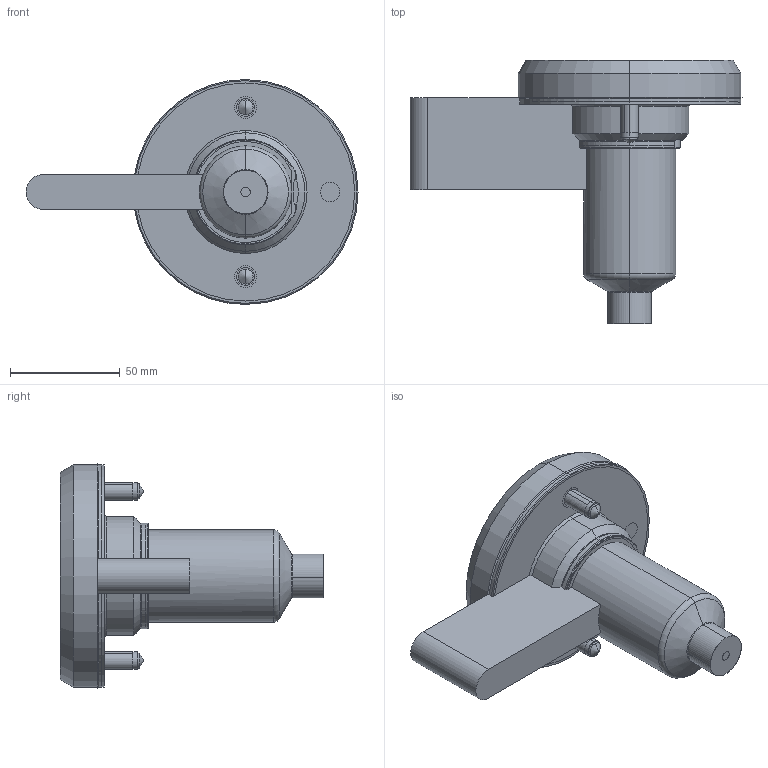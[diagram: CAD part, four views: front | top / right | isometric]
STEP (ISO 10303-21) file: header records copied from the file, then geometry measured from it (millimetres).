
FILE_DESCRIPTION (( 'STEP AP214' ), '1' );
FILE_NAME ('SOHSB16070-SOFBOP16EX.STEP', '2024-11-28T08:50:26', ( '' ), ( '' ), 'SwSTEP 2.0', 'SolidWorks 2022', '' );
FILE_SCHEMA (( 'AUTOMOTIVE_DESIGN' ));
Length unit declared in the file: millimetre
Products named in the file (11): EcoONE-HSB16-Open Gate Cut-out Details_Ext Sprue Gate or Full Body Gate; EcoONE-HSB16-16004_SONH28062; EcoONE-HSB16-16005_SOTC10350-J; SOHSB16070-SOFBOP16EX; EcoONE-HSB16-Open Gate Extended Full Body Retainer Tip_SOFRT1602; EcoONE-HSB16-Point Gate Needle Tip-Standard_SOPGN1601; EcoONE-HSB16-16006_SONHC16; socket head cap screw_iso_ISO 4762 M8 x 25 - 25N; EcoONE-HSB16-00002(A)_SOHSBLR16; EcoONE-HSB16-16003(A)_SOHSBNB16070; EcoONE-HSB16-Open Gate Extended Full Body Standad Tip Assembly_SOFBOP16EX
Assembly tree (12 placements, depth 3):
  SOHSB16070-SOFBOP16EX
    EcoONE-HSB16-16003(A)_SOHSBNB16070
    EcoONE-HSB16-16004_SONH28062
    EcoONE-HSB16-16005_SOTC10350-J
    EcoONE-HSB16-16006_SONHC16  x2
    EcoONE-HSB16-00002(A)_SOHSBLR16
    socket head cap screw_iso_ISO 4762 M8 x 25 - 25N  x2
    EcoONE-HSB16-Open Gate Extended Full Body Standad Tip Assembly_SOFBOP16EX
      EcoONE-HSB16-Open Gate Extended Full Body Retainer Tip_SOFRT1602
      EcoONE-HSB16-Point Gate Needle Tip-Standard_SOPGN1601
    EcoONE-HSB16-Open Gate Cut-out Details_Ext Sprue Gate or Full Body Gate
Bounding box: 151.2 x 120 x 102.4 mm (x, y, z)
Volume: 405892.4 mm3; surface area: 105069.8 mm2
Topology: 11 solids, 11 shells, 511 faces, 1274 edges, 798 vertices
Faces by surface type: cylinder 157, plane 136, bspline 99, cone 85, torus 26, sphere 8
Entity records: 29237 total; most frequent: CARTESIAN_POINT 17882, ORIENTED_EDGE 2324, DIRECTION 1970, EDGE_CURVE 1162, AXIS2_PLACEMENT_3D 794, VERTEX_POINT 735, EDGE_LOOP 507, ADVANCED_FACE 468
